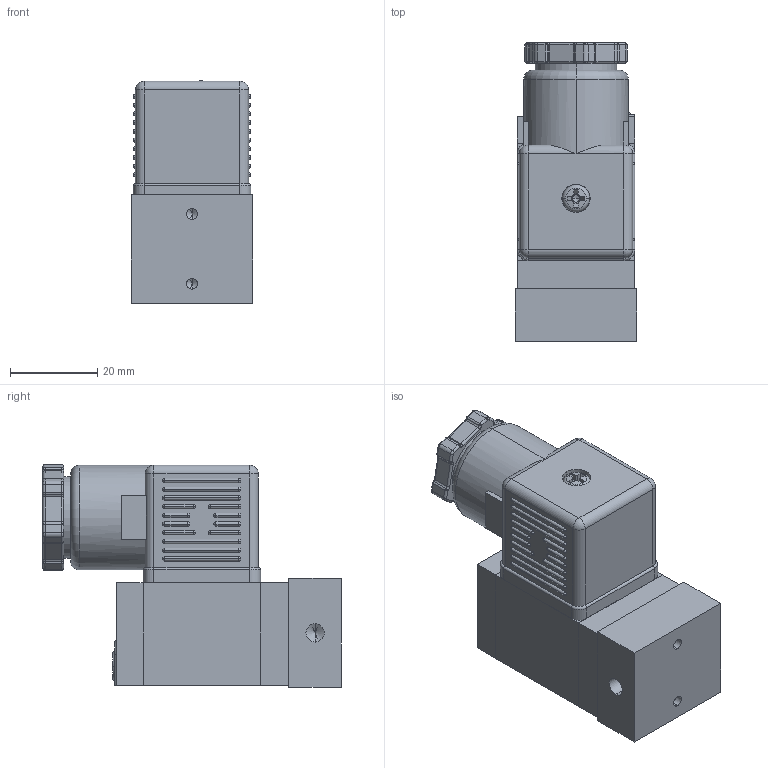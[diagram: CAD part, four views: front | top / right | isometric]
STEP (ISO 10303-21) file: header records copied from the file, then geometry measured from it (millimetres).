
FILE_DESCRIPTION (( 'STEP AP203' ), '1' );
FILE_NAME ('SS231-M5-#C#.STEP', '2016-08-01T03:15:21', ( '' ), ( '' ), 'SwSTEP 2.0', 'SolidWorks 2014', '' );
FILE_SCHEMA (( 'CONFIG_CONTROL_DESIGN' ));
Length unit declared in the file: millimetre
Products named in the file (10): PC6-M4; PCS2406-8; PC6-M3; PCS2406-7; PCS2406-9; SS231-1; SS231-C; SS231-M5-#C#
Assembly tree (10 placements, depth 3):
  SS231-M5-#C#
    SS231-1
    SS231-C
      PCS2406-7
      PCS2406-8
      PCS2406-9
      PC6-M3  x2
      PC6-M4
      SS231-C
    (unnamed)
Bounding box: 28 x 68.5 x 51.14 mm (x, y, z)
Volume: 59480 mm3; surface area: 19005.1 mm2
Topology: 9 solids, 9 shells, 571 faces, 1416 edges, 767 vertices
Faces by surface type: cylinder 177, sphere 152, plane 141, torus 66, cone 35
Entity records: 16034 total; most frequent: DIRECTION 2994, CARTESIAN_POINT 2543, ORIENTED_EDGE 2376, AXIS2_PLACEMENT_3D 1275, EDGE_CURVE 1188, CIRCLE 724, VERTEX_POINT 708, EDGE_LOOP 580
